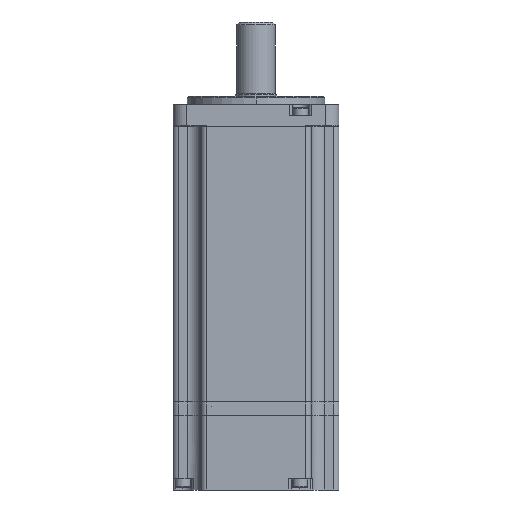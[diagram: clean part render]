
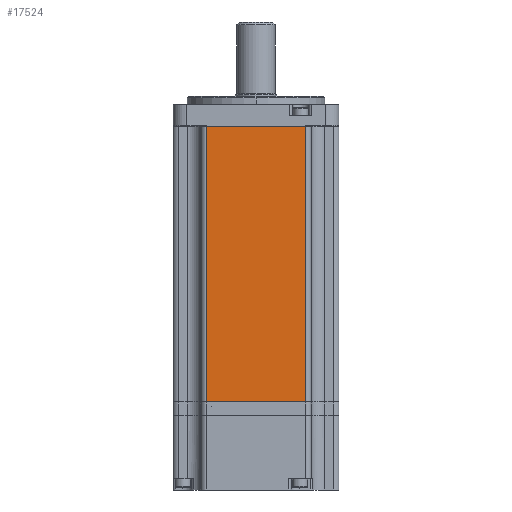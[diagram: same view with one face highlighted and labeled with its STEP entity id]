
A CAD part, front view. The second image highlights one B-rep face of the part: STEP entity #17524.
In plain terms, the highlighted planar face has unit normal (0, -1, 0).
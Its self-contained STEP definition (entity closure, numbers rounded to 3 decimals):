
#14025 = FACE_OUTER_BOUND ( 'NONE', #29189, .T. ) ;
#15672 = CARTESIAN_POINT ( 'NONE',  ( -20., -30.1, 100. ) ) ;
#15676 = PLANE ( 'NONE',  #16209 ) ;
#15678 = DIRECTION ( 'NONE',  ( 0., 1., 0. ) ) ;
#15679 = DIRECTION ( 'NONE',  ( 0., 0., 1. ) ) ;
#16209 = AXIS2_PLACEMENT_3D ( 'NONE', #15672, #15678, #15679 ) ;
#17524 = ADVANCED_FACE ( 'NONE', ( #14025 ), #15676, .F. ) ;
#19898 = VERTEX_POINT ( 'NONE', #32502 ) ;
#19899 = VERTEX_POINT ( 'NONE', #32503 ) ;
#19905 = VERTEX_POINT ( 'NONE', #32515 ) ;
#19908 = VERTEX_POINT ( 'NONE', #32520 ) ;
#24524 = EDGE_CURVE ( 'NONE', #19898, #19899, #31703, .T. ) ;
#24567 = EDGE_CURVE ( 'NONE', #19905, #19908, #31723, .T. ) ;
#24617 = EDGE_CURVE ( 'NONE', #19908, #19899, #31755, .T. ) ;
#24620 = EDGE_CURVE ( 'NONE', #19898, #19905, #31757, .T. ) ;
#28473 = ORIENTED_EDGE ( 'NONE', *, *, #24567, .T. ) ;
#28474 = ORIENTED_EDGE ( 'NONE', *, *, #24617, .T. ) ;
#28475 = ORIENTED_EDGE ( 'NONE', *, *, #24524, .F. ) ;
#28476 = ORIENTED_EDGE ( 'NONE', *, *, #24620, .T. ) ;
#29189 = EDGE_LOOP ( 'NONE', ( #28473, #28474, #28475, #28476 ) ) ;
#31703 = LINE ( 'NONE', #37294, #31705 ) ;
#31705 = VECTOR ( 'NONE', #37295, 1000. ) ;
#31723 = LINE ( 'NONE', #37339, #31725 ) ;
#31725 = VECTOR ( 'NONE', #37333, 1000. ) ;
#31755 = LINE ( 'NONE', #37392, #31758 ) ;
#31757 = LINE ( 'NONE', #37394, #31760 ) ;
#31758 = VECTOR ( 'NONE', #37393, 1000. ) ;
#31760 = VECTOR ( 'NONE', #37395, 1000. ) ;
#32502 = CARTESIAN_POINT ( 'NONE',  ( -18., -30.1, 100. ) ) ;
#32503 = CARTESIAN_POINT ( 'NONE',  ( 18., -30.1, 100. ) ) ;
#32515 = CARTESIAN_POINT ( 'NONE',  ( -18., -30.1, 0. ) ) ;
#32520 = CARTESIAN_POINT ( 'NONE',  ( 18., -30.1, 0. ) ) ;
#37294 = CARTESIAN_POINT ( 'NONE',  ( -20., -30.1, 100. ) ) ;
#37295 = DIRECTION ( 'NONE',  ( 1., 0., 0. ) ) ;
#37333 = DIRECTION ( 'NONE',  ( 1., 0., 0. ) ) ;
#37339 = CARTESIAN_POINT ( 'NONE',  ( -20., -30.1, 0. ) ) ;
#37392 = CARTESIAN_POINT ( 'NONE',  ( 18., -30.1, 100. ) ) ;
#37393 = DIRECTION ( 'NONE',  ( 0., 0., 1. ) ) ;
#37394 = CARTESIAN_POINT ( 'NONE',  ( -18., -30.1, 100. ) ) ;
#37395 = DIRECTION ( 'NONE',  ( 0., 0., -1. ) ) ;
